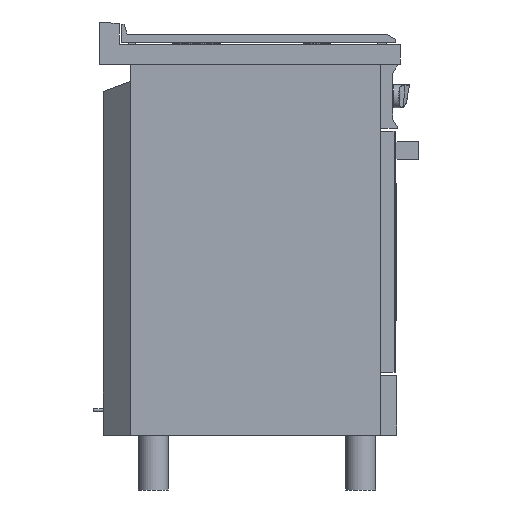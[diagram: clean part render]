
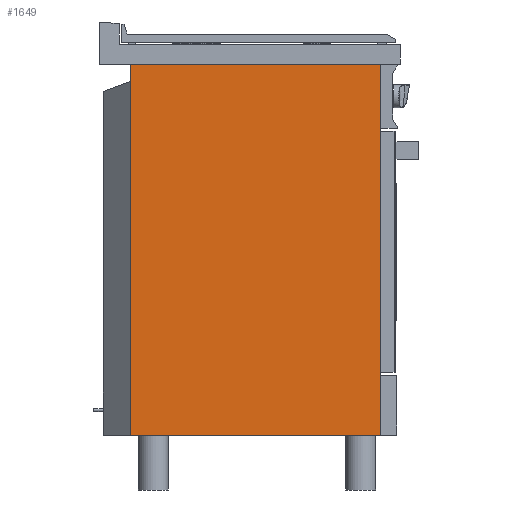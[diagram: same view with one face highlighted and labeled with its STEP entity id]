
A CAD part, left-side view. The second image highlights one B-rep face of the part: STEP entity #1649.
In plain terms, the highlighted planar face has unit normal (-1, 0, 0).
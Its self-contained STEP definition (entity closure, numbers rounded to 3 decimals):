
#1649=ADVANCED_FACE('',(#3051),#2460,.T.);
#2460=PLANE('',#14923);
#3051=FACE_OUTER_BOUND('',#3727,.T.);
#3727=EDGE_LOOP('',(#4835,#4836,#4837,#4838));
#4835=ORIENTED_EDGE('',*,*,#10030,.T.);
#4836=ORIENTED_EDGE('',*,*,#10033,.T.);
#4837=ORIENTED_EDGE('',*,*,#10034,.T.);
#4838=ORIENTED_EDGE('',*,*,#10035,.T.);
#8652=VERTEX_POINT('',#19590);
#8653=VERTEX_POINT('',#19592);
#8655=VERTEX_POINT('',#19598);
#8656=VERTEX_POINT('',#19600);
#10030=EDGE_CURVE('',#8653,#8652,#11976,.T.);
#10033=EDGE_CURVE('',#8652,#8655,#11979,.T.);
#10034=EDGE_CURVE('',#8655,#8656,#11980,.T.);
#10035=EDGE_CURVE('',#8656,#8653,#11981,.T.);
#11976=LINE('',#19591,#13451);
#11979=LINE('',#19597,#13454);
#11980=LINE('',#19599,#13455);
#11981=LINE('',#19601,#13456);
#13451=VECTOR('',#16039,1.);
#13454=VECTOR('',#16044,1.);
#13455=VECTOR('',#16045,1.);
#13456=VECTOR('',#16046,1.);
#14923=AXIS2_PLACEMENT_3D('',#19602,#16047,#16048);
#16039=DIRECTION('',(0.,1.,0.));
#16044=DIRECTION('',(0.,0.,-1.));
#16045=DIRECTION('',(0.,-1.,0.));
#16046=DIRECTION('',(0.,0.,1.));
#16047=DIRECTION('',(-1.,0.,0.));
#16048=DIRECTION('',(0.,-1.,0.));
#19590=CARTESIAN_POINT('',(-199.375,510.975,386.574));
#19591=CARTESIAN_POINT('',(-199.375,10.975,386.574));
#19592=CARTESIAN_POINT('',(-199.375,10.975,386.574));
#19597=CARTESIAN_POINT('',(-199.375,510.975,-356.226));
#19598=CARTESIAN_POINT('',(-199.375,510.975,-356.226));
#19599=CARTESIAN_POINT('',(-199.375,565.975,-356.226));
#19600=CARTESIAN_POINT('',(-199.375,10.975,-356.226));
#19601=CARTESIAN_POINT('',(-199.375,10.975,-356.226));
#19602=CARTESIAN_POINT('',(-199.375,565.975,-356.226));
